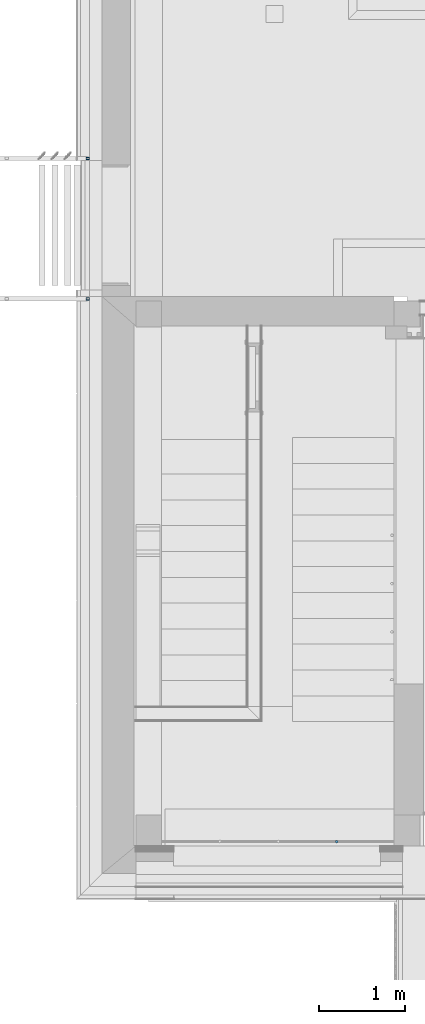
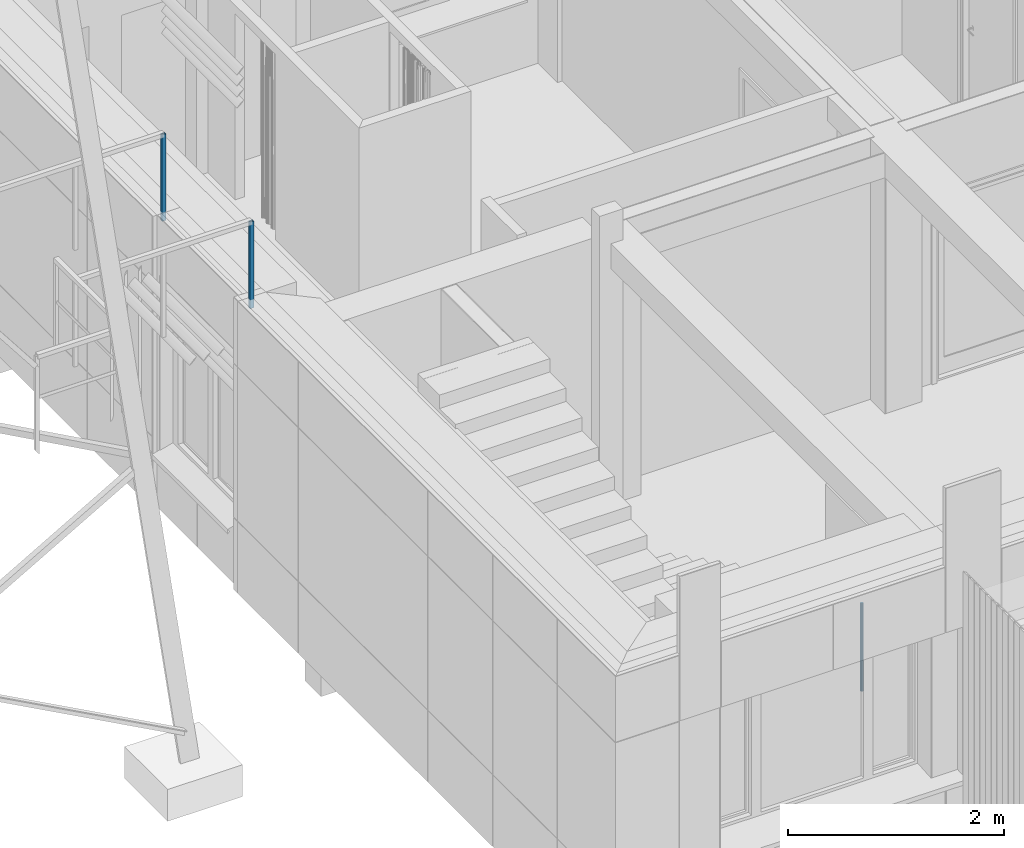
# One storey, part 17 of 418: 3 members, 3 elements without a shape of their own.
"""IFC2X3 building model written with IfcOpenShell, lengths in millimetres."""

import ifcopenshell
import ifcopenshell.guid

model = None  # the IFC model being written
_history = None  # IfcOwnerHistory: only IFC2X3 demands one
_inside = {}  # id of a spatial element -> (the spatial element, [elements in it])
_under = {}  # id of a project, library or spatial element -> (it, [spatial elements below it])
_declared = {}  # id of a project -> (the project, [libraries it declares])
_typed = {}  # id of a type object -> (the type object, [elements of that type])
_made_of = {}  # id of a material, layer set ... -> (it, [elements and type objects made of it])


def new_model(schema):
    """Start an empty IFC model of exactly this schema.

    Asked for "IFC4X3", IfcOpenShell would pick the latest addendum, in which some entities
    have other attributes; the version numbers below select the first issue.
    IFC2X3 requires an IfcOwnerHistory on every rooted entity: one is made here for all.
    """
    global model, _history
    if schema == "IFC4X3":
        model = ifcopenshell.file(schema_version=(4, 3, 0, 0))
    else:
        model = ifcopenshell.file(schema=schema)
    _inside.clear()
    _under.clear()
    _declared.clear()
    _typed.clear()
    _made_of.clear()
    _history = None
    if model.schema == "IFC2X3":
        org = make("IfcOrganization", Name="unknown")
        user = make(
            "IfcPersonAndOrganization",
            ThePerson=make("IfcPerson", FamilyName="unknown"),
            TheOrganization=org,
        )
        app = make(
            "IfcApplication",
            ApplicationDeveloper=org,
            Version="unknown",
            ApplicationFullName="unknown",
            ApplicationIdentifier="unknown",
        )
        _history = make(
            "IfcOwnerHistory",
            OwningUser=user,
            OwningApplication=app,
            ChangeAction="ADDED",
            CreationDate=0,
        )
    return model


def make(cls, **values):
    """One entity of the class cls with the attributes given. An attribute that is None is left unset."""
    return model.create_entity(
        cls, **{name: value for name, value in values.items() if value is not None}
    )


def entity(cls, *values):
    """Any entity or typed value of the class cls, its attributes in the order of the schema. None: left unset."""
    e = model.create_entity(cls)
    for i, value in enumerate(values):
        if value is not None:
            e[i] = value
    return e


def rooted(cls, **values):
    """An entity with a GlobalId (a new one), such as an element, a storey or a relation."""
    return make(cls, GlobalId=ifcopenshell.guid.new(), OwnerHistory=_history, **values)


def si_unit(unit_type, name, prefix=None):
    """IfcSIUnit, for example si_unit("LENGTHUNIT", "METRE", prefix="MILLI")."""
    return make("IfcSIUnit", UnitType=unit_type, Prefix=prefix, Name=name)


def converted_unit(unit_type, name, factor, base, dimensions=None, offset=None):
    """IfcConversionBasedUnit, such as the inch: factor (a typed value) times the base unit."""
    return make(
        "IfcConversionBasedUnit"
        if offset is None
        else "IfcConversionBasedUnitWithOffset",
        ConversionOffset=offset,
        Dimensions=None
        if dimensions is None
        else entity("IfcDimensionalExponents", *dimensions),
        UnitType=unit_type,
        Name=name,
        ConversionFactor=make(
            "IfcMeasureWithUnit", ValueComponent=factor, UnitComponent=base
        ),
    )


def derived_unit(unit_type, elements):
    """IfcDerivedUnit: a product of units, each with its exponent."""
    return make(
        "IfcDerivedUnit",
        Elements=[
            make("IfcDerivedUnitElement", Unit=unit, Exponent=power)
            for unit, power in elements
        ],
        UnitType=unit_type,
    )


def money_unit(currency):
    """IfcMonetaryUnit."""
    return make("IfcMonetaryUnit", Currency=currency)


def assignment(units):
    """IfcUnitAssignment: the units of a project."""
    return None if units is None else make("IfcUnitAssignment", Units=units)


def point(xyz):
    """IfcCartesianPoint."""
    return None if xyz is None else make("IfcCartesianPoint", Coordinates=xyz)


def direction(xyz):
    """IfcDirection."""
    return None if xyz is None else make("IfcDirection", DirectionRatios=xyz)


def frame(location, z_axis=None, x_axis=None):
    """IfcAxis2Placement3D, a coordinate frame: its origin and axes. An axis left out is left unset."""
    return make(
        "IfcAxis2Placement3D",
        Location=point(location),
        Axis=direction(z_axis),
        RefDirection=direction(x_axis),
    )


def origin_with_axes():
    """The frame at (0, 0, 0) with the z axis (0, 0, 1) and the x axis (1, 0, 0) written out."""
    return frame((0.0, 0.0, 0.0), z_axis=(0.0, 0.0, 1.0), x_axis=(1.0, 0.0, 0.0))


def place(relative_to, where):
    """IfcLocalPlacement: puts the frame where relative to a parent placement (None: the world)."""
    return make(
        "IfcLocalPlacement", PlacementRelTo=relative_to, RelativePlacement=where
    )


def context(
    kind, dimensions, precision=None, world=None, true_north=None, identifier=None
):
    """IfcGeometricRepresentationContext, for example the 3D "Model" context."""
    return make(
        "IfcGeometricRepresentationContext",
        ContextIdentifier=identifier,
        ContextType=kind,
        CoordinateSpaceDimension=dimensions,
        Precision=precision,
        WorldCoordinateSystem=world,
        TrueNorth=true_north,
    )


def subcontext(parent, identifier, kind, view, scale=None):
    """IfcGeometricRepresentationSubContext, for example "Body" below "Model"."""
    return make(
        "IfcGeometricRepresentationSubContext",
        ContextIdentifier=identifier,
        ContextType=kind,
        ParentContext=parent,
        TargetScale=scale,
        TargetView=view,
    )


def project(units=None, contexts=None):
    """IfcProject with its units and contexts."""
    return rooted(
        "IfcProject",
        Name="project",
        RepresentationContexts=contexts,
        UnitsInContext=assignment(units),
    )


def spatial(cls, under=None, at=None, **own):
    """A site, building, storey or space (cls), placed at a placement, below another one or the project."""
    s = rooted(cls, ObjectPlacement=at, **own)
    if under is not None:
        _under.setdefault(under.id(), (under, []))[1].append(s)
    return s


def faces_of(points, faces, orient=None, outer=None):
    """IfcFace entities. A face is a list of loops; a loop is a list of indices into points, from 0.

    orient and outer hold one flag for each loop. By default every Orientation is true, the
    first loop of a face is its IfcFaceOuterBound and the others are IfcFaceBound.
    """
    made = []
    for i, loops in enumerate(faces):
        bounds = []
        for j, loop in enumerate(loops):
            is_outer = j == 0 if outer is None else outer[i][j]
            bounds.append(
                make(
                    "IfcFaceOuterBound" if is_outer else "IfcFaceBound",
                    Bound=make("IfcPolyLoop", Polygon=[points[k] for k in loop]),
                    Orientation=True if orient is None else orient[i][j],
                )
            )
        made.append(make("IfcFace", Bounds=bounds))
    return made


def faceted_brep(points, faces, orient=None, outer=None, voids=None):
    """IfcFacetedBrep: a solid bounded by flat faces; with voids (closed shells), ...WithVoids."""
    shared = [point(p) for p in points]
    hull = make("IfcClosedShell", CfsFaces=faces_of(shared, faces, orient, outer))
    if voids is None:
        return make("IfcFacetedBrep", Outer=hull)
    return make(
        "IfcFacetedBrepWithVoids",
        Outer=hull,
        Voids=[
            make(cls, CfsFaces=faces_of(shared, fs, o, b)) for cls, fs, o, b in voids
        ],
    )


def shape(context_of_items, identifier, shape_type, items):
    """IfcShapeRepresentation: the items that make up one representation, for example the "Body"."""
    return make(
        "IfcShapeRepresentation",
        ContextOfItems=context_of_items,
        RepresentationIdentifier=identifier,
        RepresentationType=shape_type,
        Items=items,
    )


def source(mapping_origin, context_of_items, identifier, shape_type, items):
    """IfcRepresentationMap: a shape defined once, which mapped items show again and again."""
    return make(
        "IfcRepresentationMap",
        MappingOrigin=mapping_origin,
        MappedRepresentation=shape(context_of_items, identifier, shape_type, items),
    )


def transform(
    local_origin,
    x_axis=None,
    y_axis=None,
    z_axis=None,
    scale=None,
    scale2=None,
    scale3=None,
    uniform=True,
):
    """IfcCartesianTransformationOperator3D, or its non-uniform kind. x_axis, y_axis, z_axis: its Axis1, 2, 3."""
    if uniform:
        return make(
            "IfcCartesianTransformationOperator3D",
            Axis1=direction(x_axis),
            Axis2=direction(y_axis),
            LocalOrigin=point(local_origin),
            Scale=scale,
            Axis3=direction(z_axis),
        )
    return make(
        "IfcCartesianTransformationOperator3DnonUniform",
        Axis1=direction(x_axis),
        Axis2=direction(y_axis),
        LocalOrigin=point(local_origin),
        Scale=scale,
        Axis3=direction(z_axis),
        Scale2=scale2,
        Scale3=scale3,
    )


def mapped(mapping_source, mapping_target):
    """IfcMappedItem: shows the shape of a source again, moved by a transform."""
    return make(
        "IfcMappedItem", MappingSource=mapping_source, MappingTarget=mapping_target
    )


def material(Name=None, Category=None):
    """IfcMaterial."""
    return make("IfcMaterial", Name=Name, Category=Category)


def made_of(thing, what):
    """Note that an element or type object is made of a material, layer set ...; save() writes the relation."""
    if what is not None:
        _made_of.setdefault(what.id(), (what, []))[1].append(thing)
    return thing


def type_object(cls, material=None, **own):
    """A type object (cls), such as IfcWallType, which elements share."""
    return made_of(rooted(cls, **own), material)


def element(
    cls,
    number,
    at=None,
    inside=None,
    cuts=None,
    type_object=None,
    material=None,
    context=None,
    identifier="Body",
    shape_type=None,
    held_by="IfcProductDefinitionShape",
    body=None,
    shapes=None,
    **own,
):
    """One element of the class cls, such as IfcWall. Its Tag is "e" and its number.

    at: its placement. inside: the storey or other place that contains it. cuts: it is an
    opening in that element (IfcRelVoidsElement). A single representation is given by context,
    identifier, shape_type and body (its items); several are given by shapes. held_by: the class
    of the entity that holds the representations. save() writes the other relations.
    """
    e = rooted(cls, Tag="e%d" % number, ObjectPlacement=at, **own)
    if body is not None:
        shapes = [shape(context, identifier, shape_type, body)]
    if shapes is not None:
        e.Representation = make(held_by, Representations=shapes)
    if inside is not None:
        _inside.setdefault(inside.id(), (inside, []))[1].append(e)
    if cuts is not None:
        rooted(
            "IfcRelVoidsElement", RelatingBuildingElement=cuts, RelatedOpeningElement=e
        )
    if type_object is not None:
        _typed.setdefault(type_object.id(), (type_object, []))[1].append(e)
    return made_of(e, material)


def aggregate(whole, parts):
    """IfcRelAggregates: a whole, such as a stair, and the parts it consists of."""
    return rooted("IfcRelAggregates", RelatingObject=whole, RelatedObjects=parts)


def save(model, path):
    """Write the relations noted so far, then the file.

    IfcRelAggregates (storeys below a building ...), IfcRelContainedInSpatialStructure (elements
    in a storey), IfcRelDefinesByType, IfcRelAssociatesMaterial and IfcRelDeclares: one each for
    every whole, place, type object, material and project.
    """
    for whole, parts in _under.values():
        aggregate(whole, parts)
    for where, things in _inside.values():
        rooted(
            "IfcRelContainedInSpatialStructure",
            RelatedElements=things,
            RelatingStructure=where,
        )
    for kind, things in _typed.values():
        rooted("IfcRelDefinesByType", RelatedObjects=things, RelatingType=kind)
    for what, things in _made_of.values():
        rooted("IfcRelAssociatesMaterial", RelatedObjects=things, RelatingMaterial=what)
    for by, libraries in _declared.values():
        rooted("IfcRelDeclares", RelatingContext=by, RelatedDefinitions=libraries)
    model.write(path)


model = new_model("IFC2X3")

# Units and contexts
model_context = context("Model", 3, precision=0.01, world=origin_with_axes(), true_north=direction((0.0, 1.0)))
body_context = subcontext(model_context, "Body", "Model", "MODEL_VIEW")
ifc_project = project(units=[si_unit("LENGTHUNIT", "METRE", prefix="MILLI"), si_unit("AREAUNIT", "SQUARE_METRE"), si_unit("VOLUMEUNIT", "CUBIC_METRE"), converted_unit("PLANEANGLEUNIT", "DEGREE", entity("IfcPlaneAngleMeasure", 0.0174532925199), si_unit("PLANEANGLEUNIT", "RADIAN"), dimensions=[0, 0, 0, 0, 0, 0, 0]), si_unit("SOLIDANGLEUNIT", "STERADIAN"), money_unit("EUR"), converted_unit("TIMEUNIT", "Year", entity("IfcTimeMeasure", 31556926.0), si_unit("TIMEUNIT", "SECOND"), dimensions=[0, 0, 1, 0, 0, 0, 0]), si_unit("MASSUNIT", "GRAM", prefix="KILO"), si_unit("THERMODYNAMICTEMPERATUREUNIT", "DEGREE_CELSIUS"), si_unit("LUMINOUSINTENSITYUNIT", "LUMEN"), si_unit("ENERGYUNIT", "JOULE", prefix="MEGA"), derived_unit("THERMALCONDUCTANCEUNIT", [(si_unit("POWERUNIT", "WATT"), 1), (si_unit("LENGTHUNIT", "METRE"), -1), (si_unit("THERMODYNAMICTEMPERATUREUNIT", "KELVIN"), -1)]), derived_unit("SPECIFICHEATCAPACITYUNIT", [(si_unit("ENERGYUNIT", "JOULE"), 1), (si_unit("MASSUNIT", "GRAM", prefix="KILO"), -1), (si_unit("THERMODYNAMICTEMPERATUREUNIT", "KELVIN"), -1)]), derived_unit("MASSDENSITYUNIT", [(si_unit("MASSUNIT", "GRAM", prefix="KILO"), 1), (si_unit("VOLUMEUNIT", "CUBIC_METRE"), -1)])], contexts=[model_context])

# Site, building, storey
site_placement = place(None, origin_with_axes())
site = spatial("IfcSite", under=ifc_project, at=site_placement, Name="Paldiski mnt 245/1, Tallinn, Harjumaa", CompositionType="COMPLEX")
building_placement = place(site_placement, origin_with_axes())
building = spatial("IfcBuilding", under=site, at=building_placement, Name="RKAS Hoone üldnimetus (kasutust iseloomustav) -> IFC Project Manager -> SOLIBRI", CompositionType="ELEMENT")
storey_placement = place(building_placement, origin_with_axes())
storey = spatial("IfcBuildingStorey", under=building, at=storey_placement, Name="Esimene korrus", CompositionType="ELEMENT", Elevation=0.0)

# Railing, member
railing_type = type_object("IfcRailingType", Name="Railing Type", PredefinedType="NOTDEFINED")
railing_1_placement = place(storey_placement, frame((-47325.2205646, -12456.5621002, 1891.0), z_axis=(0.0, 0.0, 1.0), x_axis=(-0.773149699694, -0.634223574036, 0.0)))
railing_1 = element("IfcRailing", 1, at=railing_1_placement, inside=storey, type_object=railing_type, Name="PIIRE", PredefinedType="NOTDEFINED")
ifc_material_1 = material(Name="ET-07_Teras - Roostevaba")
member_type = type_object("IfcMemberType", Name="IfcMember", PredefinedType="POST")
shared_shape_1 = source(origin_with_axes(), body_context, "Body", "Brep", [
    faceted_brep([(0.0, -15.0, 0.0), (2.604722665, -14.7721162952, 0.0), (2.604722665, -14.7721162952, 994.749083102), (0.0, -15.0, 994.749083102), (-2.604722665, -14.7721162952, 0.0), (-5.13030214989, -14.0953893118, 0.0), (-7.5, -12.9903810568, 0.0), (-9.6418141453, -11.4906666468, 0.0), (-11.4906666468, -9.6418141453, 0.0), (-12.9903810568, -7.5, 0.0), (-14.0953893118, -5.13030214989, 0.0), (-14.7721162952, -2.604722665, 0.0), (-15.0, 0.0, 0.0), (-14.7721162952, 2.604722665, 0.0), (-14.0953893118, 5.13030214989, 0.0), (-12.9903810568, 7.5, 0.0), (-11.4906666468, 9.6418141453, 0.0), (-9.6418141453, 11.4906666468, 0.0), (-7.5, 12.9903810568, 0.0), (-5.13030214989, 14.0953893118, 0.0), (-2.604722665, 14.7721162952, 0.0), (0.0, 15.0, 0.0), (2.604722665, 14.7721162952, 0.0), (5.13030214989, 14.0953893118, 0.0), (7.5, 12.9903810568, 0.0), (9.6418141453, 11.4906666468, 0.0), (11.4906666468, 9.6418141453, 0.0), (12.9903810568, 7.5, 0.0), (14.0953893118, 5.13030214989, 0.0), (14.7721162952, 2.604722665, 0.0), (15.0, 0.0, 0.0), (14.7721162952, -2.604722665, 0.0), (14.0953893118, -5.13030214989, 0.0), (12.9903810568, -7.5, 0.0), (11.4906666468, -9.6418141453, 0.0), (9.6418141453, -11.4906666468, 0.0), (7.5, -12.9903810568, 0.0), (5.13030214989, -14.0953893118, 0.0), (5.13030214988, -14.0953893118, 994.749083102), (7.5, -12.9903810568, 994.749083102), (9.64181414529, -11.4906666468, 994.749083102), (11.4906666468, -9.6418141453, 994.749083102), (12.9903810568, -7.5, 994.749083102), (14.0953893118, -5.13030214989, 994.749083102), (14.7721162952, -2.604722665, 994.749083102), (15.0, 0.0, 994.749083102), (14.7721162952, 2.604722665, 994.749083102), (14.0953893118, 5.13030214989, 994.749083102), (12.9903810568, 7.5, 994.749083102), (11.4906666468, 9.6418141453, 994.749083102), (9.64181414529, 11.4906666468, 994.749083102), (7.5, 12.9903810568, 994.749083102), (5.13030214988, 14.0953893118, 994.749083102), (2.604722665, 14.7721162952, 994.749083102), (0.0, 15.0, 994.749083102), (-2.60472266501, 14.7721162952, 994.749083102), (-5.13030214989, 14.0953893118, 994.749083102), (-7.5, 12.9903810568, 994.749083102), (-9.6418141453, 11.4906666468, 994.749083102), (-11.4906666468, 9.6418141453, 994.749083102), (-12.9903810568, 7.5, 994.749083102), (-14.0953893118, 5.13030214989, 994.749083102), (-14.7721162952, 2.604722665, 994.749083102), (-15.0, 0.0, 994.749083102), (-14.7721162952, -2.604722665, 994.749083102), (-14.0953893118, -5.13030214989, 994.749083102), (-12.9903810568, -7.5, 994.749083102), (-11.4906666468, -9.6418141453, 994.749083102), (-9.6418141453, -11.4906666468, 994.749083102), (-7.5, -12.9903810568, 994.749083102), (-5.13030214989, -14.0953893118, 994.749083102), (-2.60472266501, -14.7721162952, 994.749083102)], [[[0, 1, 2, 3]], [[0, 4, 5, 6, 7, 8, 9, 10, 11, 12, 13, 14, 15, 16, 17, 18, 19, 20, 21, 22, 23, 24, 25, 26, 27, 28, 29, 30, 31, 32, 33, 34, 35, 36, 37, 1]], [[1, 37, 38, 2]], [[3, 2, 38, 39, 40, 41, 42, 43, 44, 45, 46, 47, 48, 49, 50, 51, 52, 53, 54, 55, 56, 57, 58, 59, 60, 61, 62, 63, 64, 65, 66, 67, 68, 69, 70, 71]], [[4, 0, 3, 71]], [[5, 4, 71, 70]], [[6, 5, 70, 69]], [[7, 6, 69, 68]], [[8, 7, 68, 67]], [[9, 8, 67, 66]], [[10, 9, 66, 65]], [[11, 10, 65, 64]], [[12, 11, 64, 63]], [[13, 12, 63, 62]], [[14, 13, 62, 61]], [[15, 14, 61, 60]], [[16, 15, 60, 59]], [[17, 16, 59, 58]], [[18, 17, 58, 57]], [[19, 18, 57, 56]], [[20, 19, 56, 55]], [[21, 20, 55, 54]], [[22, 21, 54, 53]], [[23, 22, 53, 52]], [[24, 23, 52, 51]], [[25, 24, 51, 50]], [[26, 25, 50, 49]], [[27, 26, 49, 48]], [[28, 27, 48, 47]], [[29, 28, 47, 46]], [[30, 29, 46, 45]], [[31, 30, 45, 44]], [[32, 31, 44, 43]], [[33, 32, 43, 42]], [[34, 33, 42, 41]], [[35, 34, 41, 40]], [[36, 35, 40, 39]], [[37, 36, 39, 38]]]),
])
member_1_placement = place(railing_1_placement, frame((-1598.25745585, 1312.93867427, -214.749083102), z_axis=(0.0, 0.0, 1.0), x_axis=(-0.773149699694, 0.634223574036, 0.0)))
member_1 = element("IfcMember", 2, at=member_1_placement, type_object=member_type, material=ifc_material_1, Name="Piirde Post - 001", ObjectType="POST", context=body_context, shape_type="MappedRepresentation", body=[
    mapped(shared_shape_1, transform((0.0, 0.0, 0.0), x_axis=(-0.000698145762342, -0.999999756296, 0.0), y_axis=(0.999999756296, -0.000698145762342, 0.0), z_axis=(0.0, 0.0, 1.0))),
])
aggregate(railing_1, [member_1])

railing_2_placement = place(storey_placement, frame((-48119.0152059, -4525.08408706, 3300.0), z_axis=(0.0, 0.0, 1.0), x_axis=(-0.773149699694, -0.634223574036, 0.0)))
railing_2 = element("IfcRailing", 3, at=railing_2_placement, inside=storey, type_object=railing_type, Name="PIIRE", PredefinedType="NOTDEFINED")
ifc_material_2 = material(Name="ET-06_Teras - Konstruktsioon")
shared_shape_2 = source(origin_with_axes(), body_context, "Body", "Brep", [
    faceted_brep([(15.0, 20.0, 0.0), (-15.0, 20.0, 0.0), (-15.0, 20.0, 980.0), (15.0, 20.0, 980.0), (15.0, -20.0, 0.0), (-15.0, -20.0, 0.0), (10.0, 15.0, 0.0), (-10.0, 15.0, 0.0), (-10.0, -15.0, 0.0), (10.0, -15.0, 0.0), (-15.0, -20.0, 980.0), (15.0, -20.0, 980.0), (10.0, 15.0, 980.0), (10.0, -15.0, 980.0), (-10.0, -15.0, 980.0), (-10.0, 15.0, 980.0)], [[[0, 1, 2, 3]], [[0, 4, 5, 1], [6, 7, 8, 9]], [[1, 5, 10, 2]], [[3, 2, 10, 11], [12, 13, 14, 15]], [[4, 0, 3, 11]], [[5, 4, 11, 10]], [[7, 6, 12, 15]], [[8, 7, 15, 14]], [[9, 8, 14, 13]], [[6, 9, 13, 12]]]),
])
member_2_placement = place(railing_2_placement, frame((22.3269398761, -18.3150450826, -100.0), z_axis=(0.0, 0.0, 1.0), x_axis=(-0.773149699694, 0.634223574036, 0.0)))
member_2 = element("IfcMember", 4, at=member_2_placement, type_object=member_type, material=ifc_material_2, Name="PIIRDE POST - 001", ObjectType="POST", context=body_context, shape_type="MappedRepresentation", body=[
    mapped(shared_shape_2, transform((0.0, 0.0, 0.0), x_axis=(0.0, 1.0, 0.0), y_axis=(-1.0, 0.0, 0.0), z_axis=(0.0, 0.0, 1.0))),
])
aggregate(railing_2, [member_2])

railing_3_placement = place(storey_placement, frame((-48119.0152059, -6155.24631697, 3300.0), z_axis=(0.0, 0.0, 1.0), x_axis=(-0.773149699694, -0.634223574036, 0.0)))
railing_3 = element("IfcRailing", 5, at=railing_3_placement, inside=storey, type_object=railing_type, Name="PIIRE", PredefinedType="NOTDEFINED")
member_3_placement = place(railing_3_placement, frame((22.3269398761, -18.3150450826, -100.0), z_axis=(0.0, 0.0, 1.0), x_axis=(-0.773149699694, 0.634223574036, 0.0)))
member_3 = element("IfcMember", 6, at=member_3_placement, type_object=member_type, material=ifc_material_2, Name="PIIRDE POST - 001", ObjectType="POST", context=body_context, shape_type="MappedRepresentation", body=[
    mapped(shared_shape_2, transform((0.0, 0.0, 0.0), x_axis=(0.0, 1.0, 0.0), y_axis=(-1.0, 0.0, 0.0), z_axis=(0.0, 0.0, 1.0))),
])
aggregate(railing_3, [member_3])

save(model, "model.ifc")
